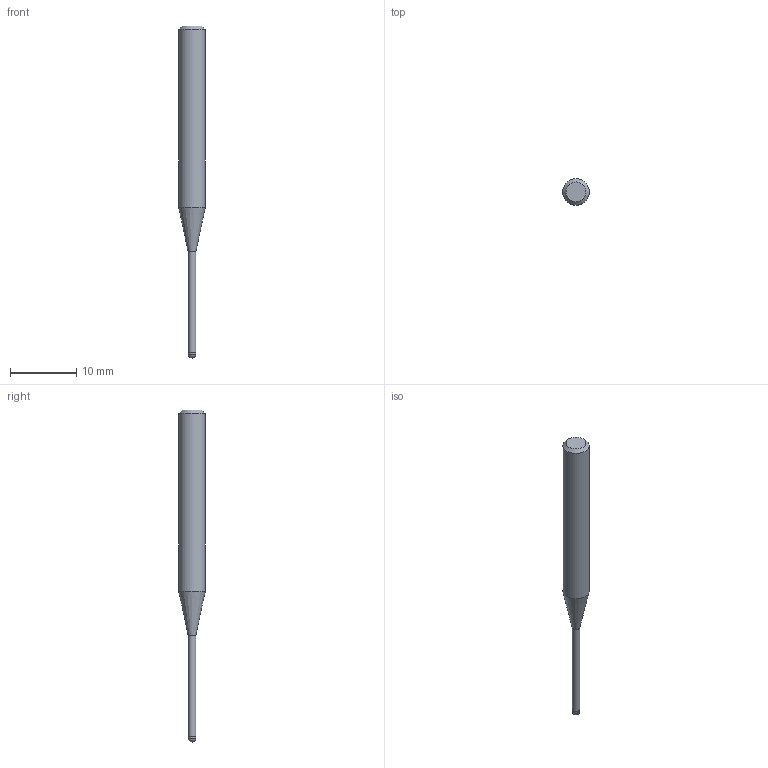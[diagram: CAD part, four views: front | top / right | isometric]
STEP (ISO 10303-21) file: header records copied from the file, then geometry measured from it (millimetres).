
FILE_DESCRIPTION((''),'2;1');
FILE_NAME('C:\Users\nsx150\AppData\Local\Temp\Mastercam 2021\ARV7HD45SN\TEMP.step','2023-06-13T16:36:07',(''),(''),'STEP Write','Mastercam 2021 ... CNC Software, Inc.','');
FILE_SCHEMA(('AUTOMOTIVE_DESIGN'));
Length unit declared in the file: millimetre
Products named in the file (1): None
Bounding box: 4 x 4 x 50 mm (x, y, z)
Volume: 396.5 mm3; surface area: 467.1 mm2
Topology: 2 solids, 2 shells, 9 faces, 14 edges, 8 vertices
Faces by surface type: plane 3, cylinder 3, cone 2, sphere 1
Full cylindrical faces by diameter (mm): 1.15 x1, 1.2 x1, 4 x1
Entity records: 211 total; most frequent: DIRECTION 36, CARTESIAN_POINT 25, AXIS2_PLACEMENT_3D 18, ORIENTED_EDGE 14, EDGE_LOOP 14, STYLED_ITEM 12, ADVANCED_FACE 9, FACE_BOUND 8
